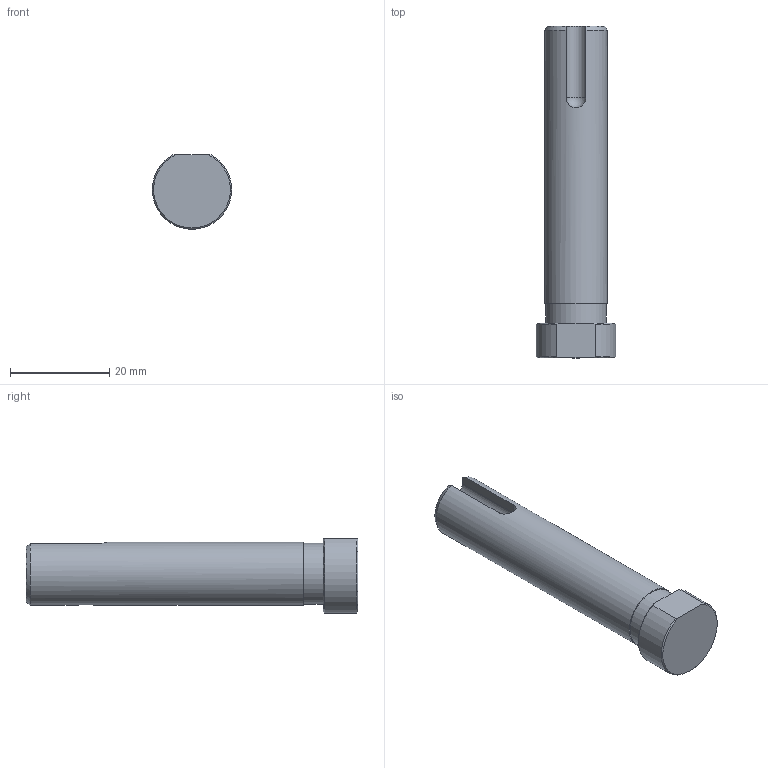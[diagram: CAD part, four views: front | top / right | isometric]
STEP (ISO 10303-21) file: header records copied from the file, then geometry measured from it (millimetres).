
FILE_DESCRIPTION (( 'STEP AP214' ), '1' );
FILE_NAME ('P1-2.60.1.STEP', '2023-03-14T08:36:13', ( '' ), ( '' ), 'SwSTEP 2.0', 'SolidWorks 2022', '' );
FILE_SCHEMA (( 'AUTOMOTIVE_DESIGN' ));
Length unit declared in the file: millimetre
Products named in the file (1): P1-2.60.1
Bounding box: 15.98 x 67 x 14.97 mm (x, y, z)
Volume: 8502.4 mm3; surface area: 3331.6 mm2
Topology: 1 solids, 1 shells, 22 faces, 58 edges, 39 vertices
Faces by surface type: plane 8, cylinder 6, cone 4, bspline 3, sphere 1
Full cylindrical faces by diameter (mm): 12.3 x1, 12.7 x1
Entity records: 3184 total; most frequent: CARTESIAN_POINT 2694, ORIENTED_EDGE 100, DIRECTION 80, EDGE_CURVE 50, VERTEX_POINT 35, AXIS2_PLACEMENT_3D 34, EDGE_LOOP 25, B_SPLINE_CURVE_WITH_KNOTS 23
